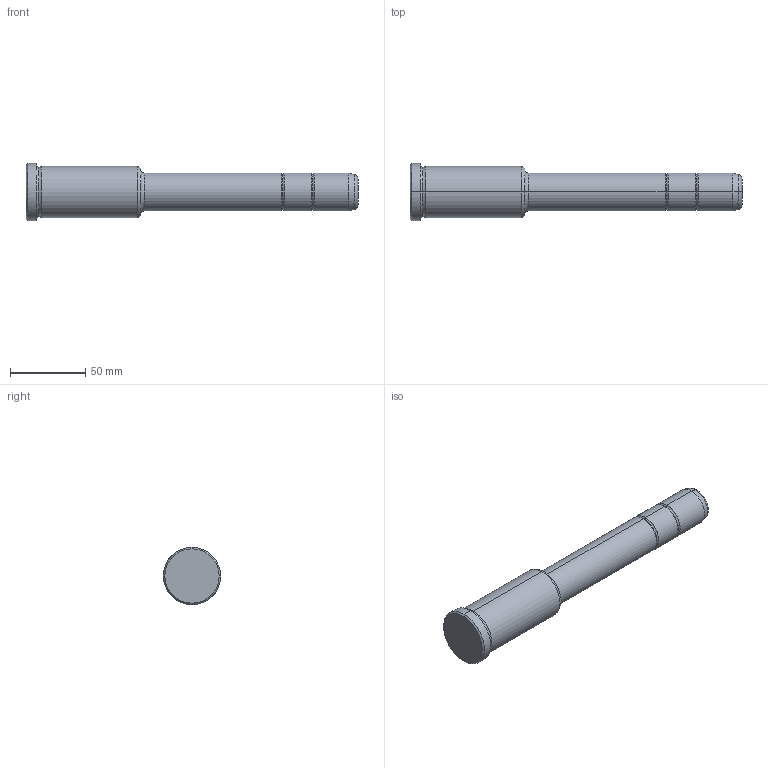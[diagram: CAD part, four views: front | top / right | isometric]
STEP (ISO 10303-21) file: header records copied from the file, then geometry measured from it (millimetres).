
FILE_DESCRIPTION(('CATIA V5 STEP Exchange'),'2;1');
FILE_NAME('C:\Users\Utente\Desktop\IO LAVORO\3D X SITO CF\X SITO\PLASTICA\351\351-25X76X220.stp','2021-09-07T11:30:44+00:00',('none'),('none'),'CATIA Version 5 Release 20 GA (IN-10)','CATIA V5 STEP AP203','none');
FILE_SCHEMA(('CONFIG_CONTROL_DESIGN'));
Length unit declared in the file: millimetre
Products named in the file (1): 351-25X76X220
Bounding box: 220 x 38 x 38 mm (x, y, z)
Volume: 140482.1 mm3; surface area: 21473.8 mm2
Topology: 1 solids, 1 shells, 36 faces, 102 edges, 70 vertices
Faces by surface type: torus 16, cylinder 10, cone 6, plane 4
Entity records: 1292 total; most frequent: CARTESIAN_POINT 321, ORIENTED_EDGE 204, DIRECTION 166, AXIS2_PLACEMENT_3D 115, EDGE_CURVE 102, CIRCLE 78, VERTEX_POINT 70, EDGE_LOOP 38
